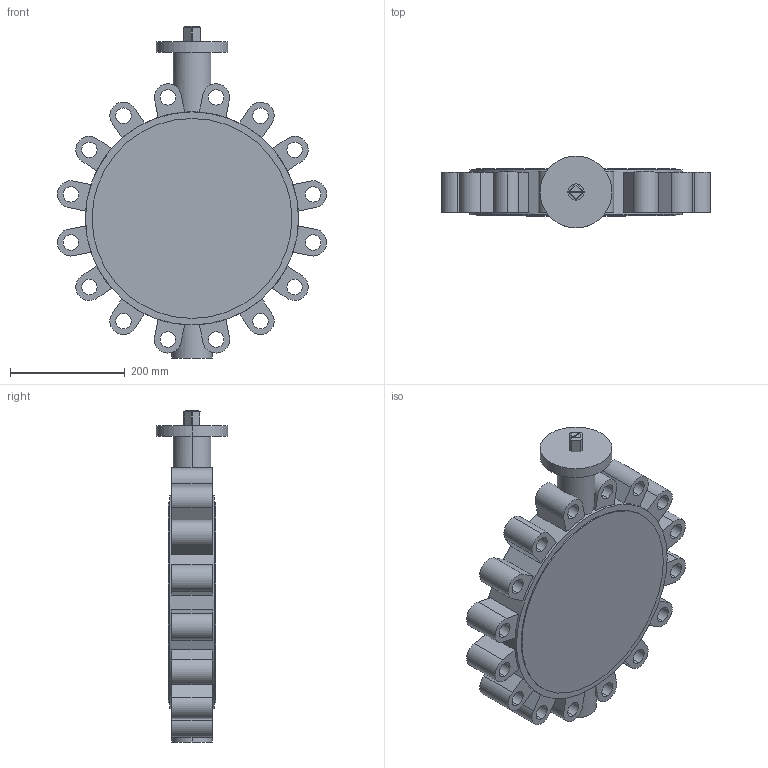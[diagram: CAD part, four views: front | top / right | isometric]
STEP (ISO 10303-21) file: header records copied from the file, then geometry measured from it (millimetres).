
FILE_DESCRIPTION (( 'STEP AP203' ), '1' );
FILE_NAME ('2502 LT型中线衬胶带销 无头蝶阀 DN300 PN25 CD0309394.STEP', '2026-05-29T07:10:04', ( '' ), ( '' ), 'SwSTEP 2.0', 'SolidWorks 2021', '' );
FILE_SCHEMA (( 'CONFIG_CONTROL_DESIGN' ));
Length unit declared in the file: millimetre
Products named in the file (3): 2502 LT型中线衬胶带销 无头蝶阀 DN300 PN25 CD0309394; GALA-D300-03ZC-01中线衬胶蝶阀阀轴; GALA-D300-01LCN25-00
Assembly tree (2 placements, depth 2):
  2502 LT型中线衬胶带销 无头蝶阀 DN300 PN25 CD0309394
    GALA-D300-01LCN25-00
    GALA-D300-03ZC-01中线衬胶蝶阀阀轴
Bounding box: 468.73 x 125 x 578 mm (x, y, z)
Volume: 11930136.4 mm3; surface area: 660881.6 mm2
Topology: 2 solids, 2 shells, 175 faces, 452 edges, 296 vertices
Faces by surface type: plane 93, cylinder 76, cone 4, torus 2
Entity records: 6047 total; most frequent: CARTESIAN_POINT 1302, DIRECTION 966, ORIENTED_EDGE 904, EDGE_CURVE 452, AXIS2_PLACEMENT_3D 366, VERTEX_POINT 296, LINE 234, VECTOR 234
